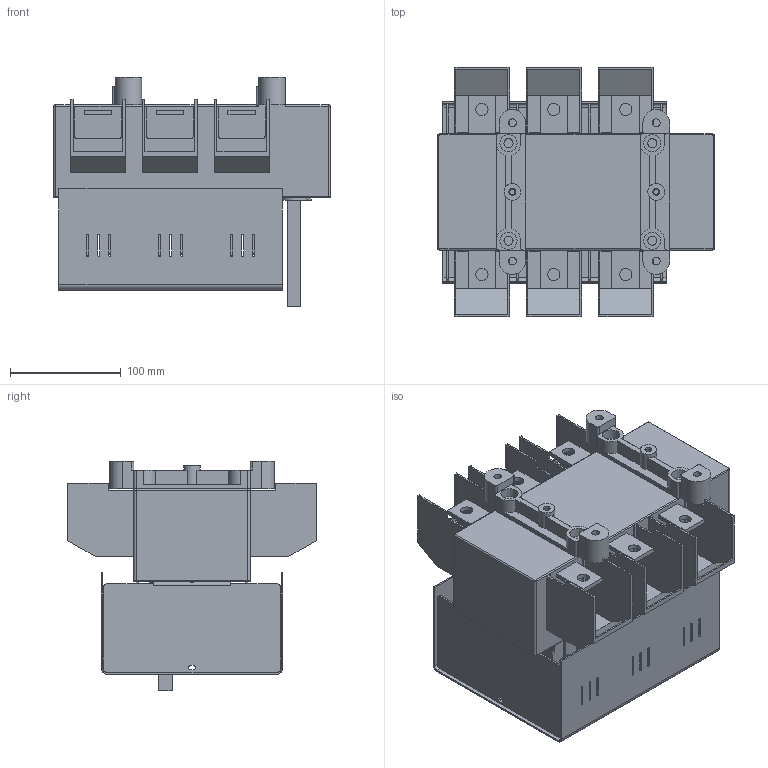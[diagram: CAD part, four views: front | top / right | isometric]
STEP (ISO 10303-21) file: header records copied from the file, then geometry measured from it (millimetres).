
FILE_DESCRIPTION(/* description */ (''),/* implementation_level */ '2;1');
FILE_NAME(/* name */ 'RAB 1 P3 z oslona zaciskow.stp',/* time_stamp */ '2021-08-19T12:08:43+02:00',/* author */ (''),/* organization */ (''),/* preprocessor_version */ 'ST-DEVELOPER v18.1',/* originating_system */ 'SIEMENS PLM Software NX 1965',/* authorisation */ '');
FILE_SCHEMA (('AUTOMOTIVE_DESIGN { 1 0 10303 214 3 1 1 1 }'));
Length unit declared in the file: millimetre
Products named in the file (1): RAB 1 P3 z oslona zaciskow_stp
Bounding box: 250 x 225 x 207.3 mm (x, y, z)
Volume: 2602226.5 mm3; surface area: 552764.9 mm2
Topology: 1 solids, 1 shells, 1116 faces, 3108 edges, 2038 vertices
Faces by surface type: plane 772, cylinder 336, torus 5, bspline 3
Full cylindrical faces by diameter (mm): 4.8 x2, 6.2 x2, 7 x4, 8.2 x4, 11 x6, 14 x4, 15 x2, 15.5 x4
Entity records: 35709 total; most frequent: CARTESIAN_POINT 6306, ORIENTED_EDGE 6144, DIRECTION 5992, EDGE_CURVE 3072, LINE 2368, VECTOR 2368, VERTEX_POINT 2030, AXIS2_PLACEMENT_3D 1812
